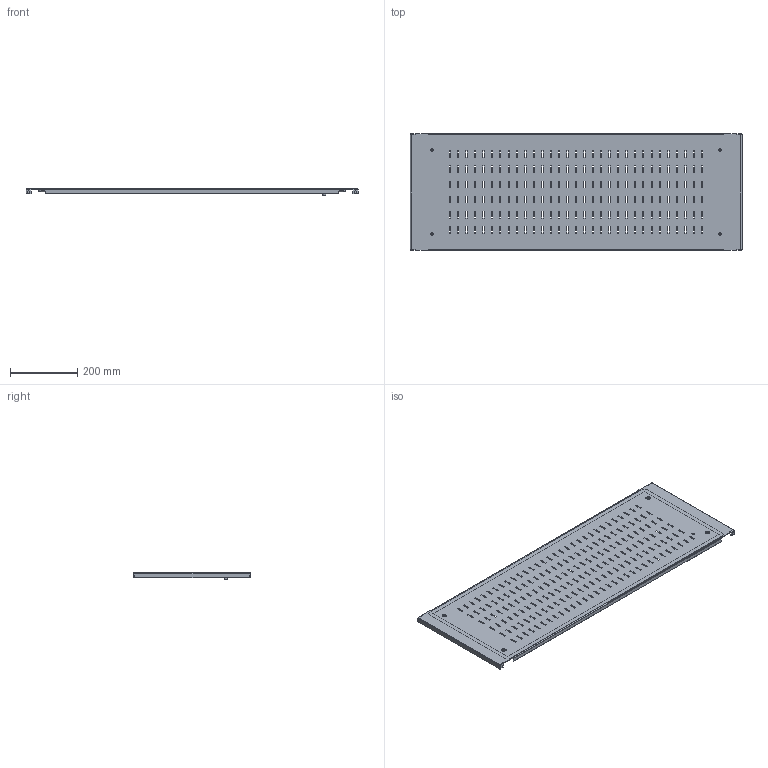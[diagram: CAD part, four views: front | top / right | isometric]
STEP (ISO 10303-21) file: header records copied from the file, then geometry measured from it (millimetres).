
FILE_DESCRIPTION(('STEP AP203'), '1');
FILE_NAME('Ïàíåëü ëèöåâàÿ ïåðôîðèðîâàííàÿ 350õ1000 ìì OptiBox M 419527 ÊÝÀÇ', '', ('UNSPECIFIED'), ('UNSPECIFIED'), 'C3D Converter', 'C3D Toolkit', '');
FILE_SCHEMA(('CONFIG_CONTROL_DESIGN'));
Length unit declared in the file: millimetre
Bounding box: 986.4 x 347 x 18.9 mm (x, y, z)
Volume: 671728 mm3; surface area: 810456.7 mm2
Topology: 3 solids, 3 shells, 912 faces, 2617 edges, 1718 vertices
Faces by surface type: plane 853, cylinder 51, bspline 8
Full cylindrical faces by diameter (mm): 0.75 x1, 1 x1, 5 x2, 7.3 x4, 8 x1, 9.3 x1, 13 x1, 13.5 x4
Entity records: 31036 total; most frequent: CARTESIAN_POINT 6469, ORIENTED_EDGE 5204, DIRECTION 4446, EDGE_CURVE 2602, LINE 2496, VECTOR 2496, VERTEX_POINT 1718, EDGE_LOOP 1320
